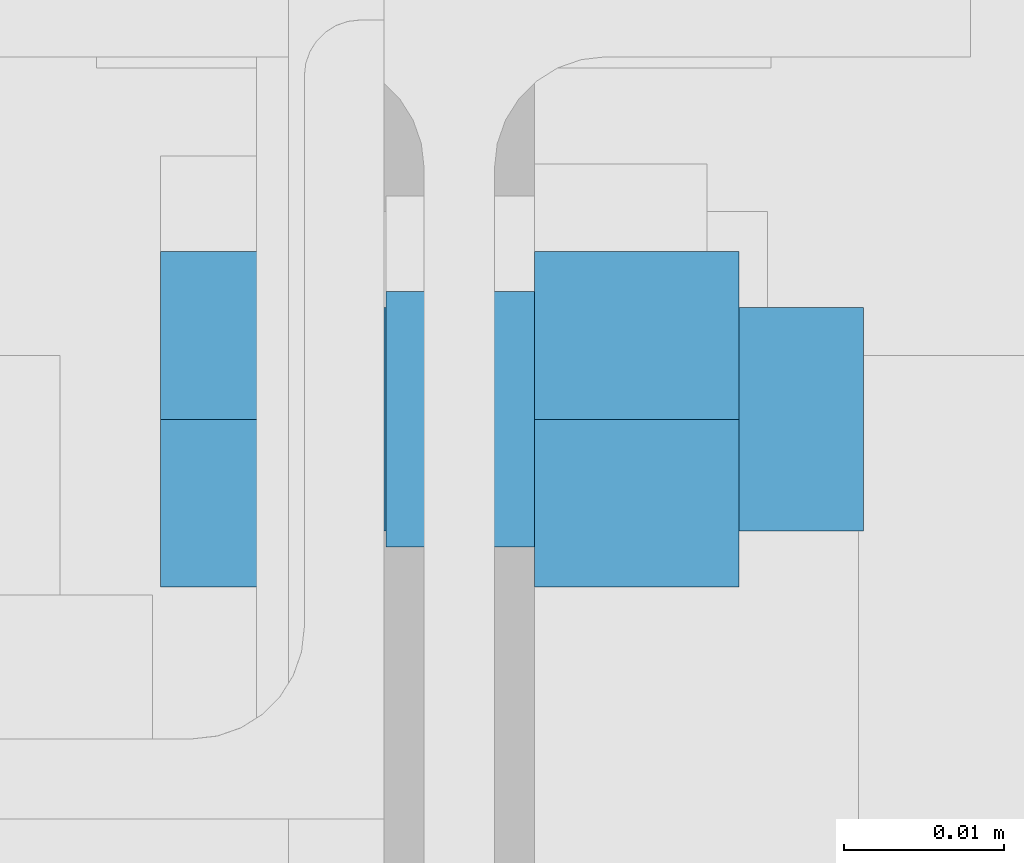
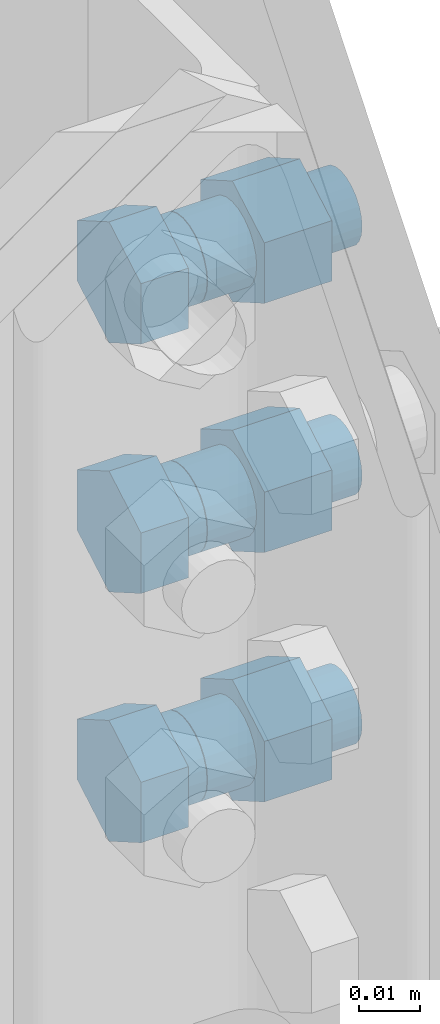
# One storey, part 15 of 21: 1 mechanical fastener.
"""IFC2X3 building model written with IfcOpenShell, lengths in millimetres."""

from ifc_helpers import new_model, si_unit, frame, origin_with_axes, place, context, project, spatial, faceted_brep, element, save


model = new_model("IFC2X3")

# Units and contexts
model_context_1 = context("Model", 3, precision=1e-05, world=origin_with_axes(), identifier="Body")
model_context_2 = context("Model", 3, precision=1e-05, world=origin_with_axes())
ifc_project = project(units=[si_unit("LENGTHUNIT", "METRE", prefix="MILLI"), si_unit("AREAUNIT", "SQUARE_METRE"), si_unit("VOLUMEUNIT", "CUBIC_METRE"), si_unit("MASSUNIT", "GRAM", prefix="KILO"), si_unit("TIMEUNIT", "SECOND"), si_unit("PLANEANGLEUNIT", "RADIAN"), si_unit("SOLIDANGLEUNIT", "STERADIAN"), si_unit("THERMODYNAMICTEMPERATUREUNIT", "DEGREE_CELSIUS"), si_unit("LUMINOUSINTENSITYUNIT", "LUMEN")], contexts=[model_context_1, model_context_2])

# Site, building, storey
site_placement = place(None, origin_with_axes())
site = spatial("IfcSite", under=ifc_project, at=site_placement, Name="Undefined", CompositionType="ELEMENT")
building_placement = place(site_placement, origin_with_axes())
building = spatial("IfcBuilding", under=site, at=building_placement, Name="Undefined", CompositionType="ELEMENT")
storey_placement = place(building_placement, origin_with_axes())
storey = spatial("IfcBuildingStorey", under=building, at=storey_placement, Name="Undefined", CompositionType="ELEMENT")

# Mechanical fastener
mechanical_fastener_placement = place(storey_placement, frame((9.729142e-06, -43.999202, 70.802388), z_axis=(3.4106055e-16, -1.0, -3.1900003e-05), x_axis=(1.2899234e-13, 3.1900003e-05, -1.0)))
element("IfcMechanicalFastener", 1, at=mechanical_fastener_placement, inside=storey, Name="Bolt assembly", NominalDiameter=14.0, NominalLength=35.0, context=model_context_1, shape_type="Brep", body=[
    faceted_brep([(12.124356, -18.70001, 0.0), (6.0621778, -18.70001, 10.5), (-6.0621778, -18.70001, 10.5), (-12.124356, -18.70001, 0.0), (-6.0621778, -18.70001, -10.5), (6.0621778, -18.70001, -10.5), (6.0621778, -9.7000095, -10.5), (-6.0621778, -9.7000095, -10.5), (-12.124356, -9.7000095, 0.0), (-6.0621778, -9.7000095, 10.5), (6.0621778, -9.7000095, 10.5), (12.124356, -9.7000095, 0.0), (7.0, -9.7000095, 0.0), (6.7614808, -9.7000095, 1.8117333), (6.0621778, -9.7000095, 3.5), (4.9497475, -9.7000095, 4.9497475), (3.5, -9.7000095, 6.0621778), (1.8117333, -9.7000095, 6.7614808), (-7.2543519e-13, -9.7000095, 7.0), (-1.8117333, -9.7000095, 6.7614808), (-3.5, -9.7000095, 6.0621778), (-4.9497475, -9.7000095, 4.9497475), (-6.0621778, -9.7000095, 3.5), (-6.7614808, -9.7000095, 1.8117333), (-7.0, -9.7000095, -1.4508704e-12), (-6.7614808, -9.7000095, -1.8117333), (-6.0621778, -9.7000095, -3.5), (-4.9497475, -9.7000095, -4.9497475), (-3.5, -9.7000095, -6.0621778), (-1.8117333, -9.7000095, -6.7614808), (2.168534e-12, -9.7000095, -7.0), (1.8117333, -9.7000095, -6.7614808), (3.5, -9.7000095, -6.0621778), (4.9497475, -9.7000095, -4.9497475), (6.0621778, -9.7000095, -3.5), (6.7614808, -9.7000095, -1.8117333), (6.7614808, 25.29999, -1.8117333), (6.0621778, 25.29999, -3.5), (4.9497475, 25.29999, -4.9497475), (3.5, 25.29999, -6.0621778), (1.8117333, 25.29999, -6.7614808), (2.168534e-12, 25.29999, -7.0), (-1.8117333, 25.29999, -6.7614808), (-3.5, 25.29999, -6.0621778), (-4.9497475, 25.29999, -4.9497475), (-6.0621778, 25.29999, -3.5), (-6.7614808, 25.29999, -1.8117333), (-7.0, 25.29999, -1.4508704e-12), (-6.7614808, 25.29999, 1.8117333), (-6.0621778, 25.29999, 3.5), (-4.9497475, 25.29999, 4.9497475), (-3.5, 25.29999, 6.0621778), (-1.8117333, 25.29999, 6.7614808), (-7.2543519e-13, 25.29999, 7.0), (1.8117333, 25.29999, 6.7614808), (3.5, 25.29999, 6.0621778), (4.9497475, 25.29999, 4.9497475), (6.0621778, 25.29999, 3.5), (6.7614808, 25.29999, 1.8117333), (7.0, 25.29999, 0.0), (12.124356, 4.6999901, 0.0), (6.0621778, 4.6999901, 10.5), (-6.0621778, 4.6999901, 10.5), (-12.124356, 4.6999901, 0.0), (-6.0621778, 4.6999901, -10.5), (6.0621778, 4.6999901, -10.5), (6.0621778, 17.49999, -10.5), (-6.0621778, 17.49999, -10.5), (-12.124356, 17.49999, 0.0), (-6.0621778, 17.49999, 10.5), (6.0621778, 17.49999, 10.5), (12.124356, 17.49999, 0.0), (62.124356, -18.70001, 0.0), (56.062178, -18.70001, 10.5), (43.937822, -18.70001, 10.5), (37.875644, -18.70001, 0.0), (43.937822, -18.70001, -10.5), (56.062178, -18.70001, -10.5), (56.062178, -9.7000095, -10.5), (43.937822, -9.7000095, -10.5), (37.875644, -9.7000095, 0.0), (43.937822, -9.7000095, 10.5), (56.062178, -9.7000095, 10.5), (62.124356, -9.7000095, 0.0), (57.0, -9.7000095, 0.0), (56.761481, -9.7000095, 1.8117333), (56.062178, -9.7000095, 3.5), (54.949747, -9.7000095, 4.9497475), (53.5, -9.7000095, 6.0621778), (51.811733, -9.7000095, 6.7614808), (50.0, -9.7000095, 7.0), (48.188267, -9.7000095, 6.7614808), (46.5, -9.7000095, 6.0621778), (45.050253, -9.7000095, 4.9497475), (43.937822, -9.7000095, 3.5), (43.238519, -9.7000095, 1.8117333), (43.0, -9.7000095, -1.4508704e-12), (43.238519, -9.7000095, -1.8117333), (43.937822, -9.7000095, -3.5), (45.050253, -9.7000095, -4.9497475), (46.5, -9.7000095, -6.0621778), (48.188267, -9.7000095, -6.7614808), (50.0, -9.7000095, -7.0), (51.811733, -9.7000095, -6.7614808), (53.5, -9.7000095, -6.0621778), (54.949747, -9.7000095, -4.9497475), (56.062178, -9.7000095, -3.5), (56.761481, -9.7000095, -1.8117333), (56.761481, 25.29999, -1.8117333), (56.062178, 25.29999, -3.5), (54.949747, 25.29999, -4.9497475), (53.5, 25.29999, -6.0621778), (51.811733, 25.29999, -6.7614808), (50.0, 25.29999, -7.0), (48.188267, 25.29999, -6.7614808), (46.5, 25.29999, -6.0621778), (45.050253, 25.29999, -4.9497475), (43.937822, 25.29999, -3.5), (43.238519, 25.29999, -1.8117333), (43.0, 25.29999, -1.4508704e-12), (43.238519, 25.29999, 1.8117333), (43.937822, 25.29999, 3.5), (45.050253, 25.29999, 4.9497475), (46.5, 25.29999, 6.0621778), (48.188267, 25.29999, 6.7614808), (50.0, 25.29999, 7.0), (51.811733, 25.29999, 6.7614808), (53.5, 25.29999, 6.0621778), (54.949747, 25.29999, 4.9497475), (56.062178, 25.29999, 3.5), (56.761481, 25.29999, 1.8117333), (57.0, 25.29999, 0.0), (62.124356, 4.6999901, 0.0), (56.062178, 4.6999901, 10.5), (43.937822, 4.6999901, 10.5), (37.875644, 4.6999901, 0.0), (43.937822, 4.6999901, -10.5), (56.062178, 4.6999901, -10.5), (56.062178, 17.49999, -10.5), (43.937822, 17.49999, -10.5), (37.875644, 17.49999, 0.0), (43.937822, 17.49999, 10.5), (56.062178, 17.49999, 10.5), (62.124356, 17.49999, 0.0), (112.12436, -18.70001, 0.0), (106.06218, -18.70001, 10.5), (93.937822, -18.70001, 10.5), (87.875644, -18.70001, 0.0), (93.937822, -18.70001, -10.5), (106.06218, -18.70001, -10.5), (106.06218, -9.7000095, -10.5), (93.937822, -9.7000095, -10.5), (87.875644, -9.7000095, 0.0), (93.937822, -9.7000095, 10.5), (106.06218, -9.7000095, 10.5), (112.12436, -9.7000095, 0.0), (107.0, -9.7000095, 0.0), (106.76148, -9.7000095, 1.8117333), (106.06218, -9.7000095, 3.5), (104.94975, -9.7000095, 4.9497475), (103.5, -9.7000095, 6.0621778), (101.81173, -9.7000095, 6.7614808), (100.0, -9.7000095, 7.0), (98.188267, -9.7000095, 6.7614808), (96.5, -9.7000095, 6.0621778), (95.050253, -9.7000095, 4.9497475), (93.937822, -9.7000095, 3.5), (93.238519, -9.7000095, 1.8117333), (93.0, -9.7000095, -1.4508704e-12), (93.238519, -9.7000095, -1.8117333), (93.937822, -9.7000095, -3.5), (95.050253, -9.7000095, -4.9497475), (96.5, -9.7000095, -6.0621778), (98.188267, -9.7000095, -6.7614808), (100.0, -9.7000095, -7.0), (101.81173, -9.7000095, -6.7614808), (103.5, -9.7000095, -6.0621778), (104.94975, -9.7000095, -4.9497475), (106.06218, -9.7000095, -3.5), (106.76148, -9.7000095, -1.8117333), (106.76148, 25.29999, -1.8117333), (106.06218, 25.29999, -3.5), (104.94975, 25.29999, -4.9497475), (103.5, 25.29999, -6.0621778), (101.81173, 25.29999, -6.7614808), (100.0, 25.29999, -7.0), (98.188267, 25.29999, -6.7614808), (96.5, 25.29999, -6.0621778), (95.050253, 25.29999, -4.9497475), (93.937822, 25.29999, -3.5), (93.238519, 25.29999, -1.8117333), (93.0, 25.29999, -1.4508704e-12), (93.238519, 25.29999, 1.8117333), (93.937822, 25.29999, 3.5), (95.050253, 25.29999, 4.9497475), (96.5, 25.29999, 6.0621778), (98.188267, 25.29999, 6.7614808), (100.0, 25.29999, 7.0), (101.81173, 25.29999, 6.7614808), (103.5, 25.29999, 6.0621778), (104.94975, 25.29999, 4.9497475), (106.06218, 25.29999, 3.5), (106.76148, 25.29999, 1.8117333), (107.0, 25.29999, 0.0), (112.12436, 4.6999901, 0.0), (106.06218, 4.6999901, 10.5), (93.937822, 4.6999901, 10.5), (87.875644, 4.6999901, 0.0), (93.937822, 4.6999901, -10.5), (106.06218, 4.6999901, -10.5), (106.06218, 17.49999, -10.5), (93.937822, 17.49999, -10.5), (87.875644, 17.49999, 0.0), (93.937822, 17.49999, 10.5), (106.06218, 17.49999, 10.5), (112.12436, 17.49999, 0.0)], [[[0, 1, 2, 3, 4, 5]], [[6, 7, 8, 9, 10, 11]], [[0, 11, 10, 1]], [[1, 10, 9, 2]], [[2, 9, 8, 3]], [[3, 8, 7, 4]], [[4, 7, 6, 5]], [[5, 6, 11, 0]], [[12, 13, 14, 15, 16, 17, 18, 19, 20, 21, 22, 23, 24, 25, 26, 27, 28, 29, 30, 31, 32, 33, 34, 35]], [[36, 37, 38, 39, 40, 41, 42, 43, 44, 45, 46, 47, 48, 49, 50, 51, 52, 53, 54, 55, 56, 57, 58, 59]], [[12, 59, 58, 13]], [[13, 58, 57, 14]], [[14, 57, 56, 15]], [[15, 56, 55, 16]], [[16, 55, 54, 17]], [[17, 54, 53, 18]], [[18, 53, 52, 19]], [[19, 52, 51, 20]], [[20, 51, 50, 21]], [[21, 50, 49, 22]], [[22, 49, 48, 23]], [[23, 48, 47, 24]], [[24, 47, 46, 25]], [[25, 46, 45, 26]], [[26, 45, 44, 27]], [[27, 44, 43, 28]], [[28, 43, 42, 29]], [[29, 42, 41, 30]], [[30, 41, 40, 31]], [[31, 40, 39, 32]], [[32, 39, 38, 33]], [[33, 38, 37, 34]], [[34, 37, 36, 35]], [[35, 36, 59, 12]], [[60, 61, 62, 63, 64, 65]], [[66, 67, 68, 69, 70, 71]], [[60, 71, 70, 61]], [[61, 70, 69, 62]], [[62, 69, 68, 63]], [[63, 68, 67, 64]], [[64, 67, 66, 65]], [[65, 66, 71, 60]], [[72, 73, 74, 75, 76, 77]], [[78, 79, 80, 81, 82, 83]], [[72, 83, 82, 73]], [[73, 82, 81, 74]], [[74, 81, 80, 75]], [[75, 80, 79, 76]], [[76, 79, 78, 77]], [[77, 78, 83, 72]], [[84, 85, 86, 87, 88, 89, 90, 91, 92, 93, 94, 95, 96, 97, 98, 99, 100, 101, 102, 103, 104, 105, 106, 107]], [[108, 109, 110, 111, 112, 113, 114, 115, 116, 117, 118, 119, 120, 121, 122, 123, 124, 125, 126, 127, 128, 129, 130, 131]], [[84, 131, 130, 85]], [[85, 130, 129, 86]], [[86, 129, 128, 87]], [[87, 128, 127, 88]], [[88, 127, 126, 89]], [[89, 126, 125, 90]], [[90, 125, 124, 91]], [[91, 124, 123, 92]], [[92, 123, 122, 93]], [[93, 122, 121, 94]], [[94, 121, 120, 95]], [[95, 120, 119, 96]], [[96, 119, 118, 97]], [[97, 118, 117, 98]], [[98, 117, 116, 99]], [[99, 116, 115, 100]], [[100, 115, 114, 101]], [[101, 114, 113, 102]], [[102, 113, 112, 103]], [[103, 112, 111, 104]], [[104, 111, 110, 105]], [[105, 110, 109, 106]], [[106, 109, 108, 107]], [[107, 108, 131, 84]], [[132, 133, 134, 135, 136, 137]], [[138, 139, 140, 141, 142, 143]], [[132, 143, 142, 133]], [[133, 142, 141, 134]], [[134, 141, 140, 135]], [[135, 140, 139, 136]], [[136, 139, 138, 137]], [[137, 138, 143, 132]], [[144, 145, 146, 147, 148, 149]], [[150, 151, 152, 153, 154, 155]], [[144, 155, 154, 145]], [[145, 154, 153, 146]], [[146, 153, 152, 147]], [[147, 152, 151, 148]], [[148, 151, 150, 149]], [[149, 150, 155, 144]], [[156, 157, 158, 159, 160, 161, 162, 163, 164, 165, 166, 167, 168, 169, 170, 171, 172, 173, 174, 175, 176, 177, 178, 179]], [[180, 181, 182, 183, 184, 185, 186, 187, 188, 189, 190, 191, 192, 193, 194, 195, 196, 197, 198, 199, 200, 201, 202, 203]], [[156, 203, 202, 157]], [[157, 202, 201, 158]], [[158, 201, 200, 159]], [[159, 200, 199, 160]], [[160, 199, 198, 161]], [[161, 198, 197, 162]], [[162, 197, 196, 163]], [[163, 196, 195, 164]], [[164, 195, 194, 165]], [[165, 194, 193, 166]], [[166, 193, 192, 167]], [[167, 192, 191, 168]], [[168, 191, 190, 169]], [[169, 190, 189, 170]], [[170, 189, 188, 171]], [[171, 188, 187, 172]], [[172, 187, 186, 173]], [[173, 186, 185, 174]], [[174, 185, 184, 175]], [[175, 184, 183, 176]], [[176, 183, 182, 177]], [[177, 182, 181, 178]], [[178, 181, 180, 179]], [[179, 180, 203, 156]], [[204, 205, 206, 207, 208, 209]], [[210, 211, 212, 213, 214, 215]], [[204, 215, 214, 205]], [[205, 214, 213, 206]], [[206, 213, 212, 207]], [[207, 212, 211, 208]], [[208, 211, 210, 209]], [[209, 210, 215, 204]]]),
    faceted_brep([(8.0, -4.6000095, 0.0), (7.7274066, -4.6000095, 2.0705524), (6.9282032, -4.6000095, 4.0), (5.6568542, -4.6000095, 5.6568542), (4.0, -4.6000095, 6.9282032), (2.0705524, -4.6000095, 7.7274066), (-8.2906879e-13, -4.6000095, 8.0), (-2.0705524, -4.6000095, 7.7274066), (-4.0, -4.6000095, 6.9282032), (-5.6568542, -4.6000095, 5.6568542), (-6.9282032, -4.6000095, 4.0), (-7.7274066, -4.6000095, 2.0705524), (-8.0, -4.6000095, -1.6581376e-12), (-7.7274066, -4.6000095, -2.0705524), (-6.9282032, -4.6000095, -4.0), (-5.6568542, -4.6000095, -5.6568542), (-4.0, -4.6000095, -6.9282032), (-2.0705524, -4.6000095, -7.7274066), (2.4783246e-12, -4.6000095, -8.0), (2.0705524, -4.6000095, -7.7274066), (4.0, -4.6000095, -6.9282032), (5.6568542, -4.6000095, -5.6568542), (6.9282032, -4.6000095, -4.0), (7.7274066, -4.6000095, -2.0705524), (7.7274066, 4.7999901, -2.0705524), (6.9282032, 4.7999901, -4.0), (5.6568542, 4.7999901, -5.6568542), (4.0, 4.7999901, -6.9282032), (2.0705524, 4.7999901, -7.7274066), (2.4783246e-12, 4.7999901, -8.0), (-2.0705524, 4.7999901, -7.7274066), (-4.0, 4.7999901, -6.9282032), (-5.6568542, 4.7999901, -5.6568542), (-6.9282032, 4.7999901, -4.0), (-7.7274066, 4.7999901, -2.0705524), (-8.0, 4.7999901, -1.6581376e-12), (-7.7274066, 4.7999901, 2.0705524), (-6.9282032, 4.7999901, 4.0), (-5.6568542, 4.7999901, 5.6568542), (-4.0, 4.7999901, 6.9282032), (-2.0705524, 4.7999901, 7.7274066), (-8.2906879e-13, 4.7999901, 8.0), (2.0705524, 4.7999901, 7.7274066), (4.0, 4.7999901, 6.9282032), (5.6568542, 4.7999901, 5.6568542), (6.9282032, 4.7999901, 4.0), (7.7274066, 4.7999901, 2.0705524), (8.0, 4.7999901, 0.0), (8.0, -9.8000095, 0.0), (7.7274066, -9.8000095, 2.0705524), (6.9282032, -9.8000095, 4.0), (5.6568542, -9.8000095, 5.6568542), (4.0, -9.8000095, 6.9282032), (2.0705524, -9.8000095, 7.7274066), (-8.2906879e-13, -9.8000095, 8.0), (-2.0705524, -9.8000095, 7.7274066), (-4.0, -9.8000095, 6.9282032), (-5.6568542, -9.8000095, 5.6568542), (-6.9282032, -9.8000095, 4.0), (-7.7274066, -9.8000095, 2.0705524), (-8.0, -9.8000095, -1.6581376e-12), (-7.7274066, -9.8000095, -2.0705524), (-6.9282032, -9.8000095, -4.0), (-5.6568542, -9.8000095, -5.6568542), (-4.0, -9.8000095, -6.9282032), (-2.0705524, -9.8000095, -7.7274066), (2.4783246e-12, -9.8000095, -8.0), (2.0705524, -9.8000095, -7.7274066), (4.0, -9.8000095, -6.9282032), (5.6568542, -9.8000095, -5.6568542), (6.9282032, -9.8000095, -4.0), (7.7274066, -9.8000095, -2.0705524), (7.7274066, -4.7000095, -2.0705524), (6.9282032, -4.7000095, -4.0), (5.6568542, -4.7000095, -5.6568542), (4.0, -4.7000095, -6.9282032), (2.0705524, -4.7000095, -7.7274066), (2.4783246e-12, -4.7000095, -8.0), (-2.0705524, -4.7000095, -7.7274066), (-4.0, -4.7000095, -6.9282032), (-5.6568542, -4.7000095, -5.6568542), (-6.9282032, -4.7000095, -4.0), (-7.7274066, -4.7000095, -2.0705524), (-8.0, -4.7000095, -1.6581376e-12), (-7.7274066, -4.7000095, 2.0705524), (-6.9282032, -4.7000095, 4.0), (-5.6568542, -4.7000095, 5.6568542), (-4.0, -4.7000095, 6.9282032), (-2.0705524, -4.7000095, 7.7274066), (-8.2906879e-13, -4.7000095, 8.0), (2.0705524, -4.7000095, 7.7274066), (4.0, -4.7000095, 6.9282032), (5.6568542, -4.7000095, 5.6568542), (6.9282032, -4.7000095, 4.0), (7.7274066, -4.7000095, 2.0705524), (8.0, -4.7000095, 0.0), (58.0, -4.6000095, 0.0), (57.727407, -4.6000095, 2.0705524), (56.928203, -4.6000095, 4.0), (55.656854, -4.6000095, 5.6568542), (54.0, -4.6000095, 6.9282032), (52.070552, -4.6000095, 7.7274066), (50.0, -4.6000095, 8.0), (47.929448, -4.6000095, 7.7274066), (46.0, -4.6000095, 6.9282032), (44.343146, -4.6000095, 5.6568542), (43.071797, -4.6000095, 4.0), (42.272593, -4.6000095, 2.0705524), (42.0, -4.6000095, -1.6581376e-12), (42.272593, -4.6000095, -2.0705524), (43.071797, -4.6000095, -4.0), (44.343146, -4.6000095, -5.6568542), (46.0, -4.6000095, -6.9282032), (47.929448, -4.6000095, -7.7274066), (50.0, -4.6000095, -8.0), (52.070552, -4.6000095, -7.7274066), (54.0, -4.6000095, -6.9282032), (55.656854, -4.6000095, -5.6568542), (56.928203, -4.6000095, -4.0), (57.727407, -4.6000095, -2.0705524), (57.727407, 4.7999901, -2.0705524), (56.928203, 4.7999901, -4.0), (55.656854, 4.7999901, -5.6568542), (54.0, 4.7999901, -6.9282032), (52.070552, 4.7999901, -7.7274066), (50.0, 4.7999901, -8.0), (47.929448, 4.7999901, -7.7274066), (46.0, 4.7999901, -6.9282032), (44.343146, 4.7999901, -5.6568542), (43.071797, 4.7999901, -4.0), (42.272593, 4.7999901, -2.0705524), (42.0, 4.7999901, -1.6581376e-12), (42.272593, 4.7999901, 2.0705524), (43.071797, 4.7999901, 4.0), (44.343146, 4.7999901, 5.6568542), (46.0, 4.7999901, 6.9282032), (47.929448, 4.7999901, 7.7274066), (50.0, 4.7999901, 8.0), (52.070552, 4.7999901, 7.7274066), (54.0, 4.7999901, 6.9282032), (55.656854, 4.7999901, 5.6568542), (56.928203, 4.7999901, 4.0), (57.727407, 4.7999901, 2.0705524), (58.0, 4.7999901, 0.0), (58.0, -9.8000095, 0.0), (57.727407, -9.8000095, 2.0705524), (56.928203, -9.8000095, 4.0), (55.656854, -9.8000095, 5.6568542), (54.0, -9.8000095, 6.9282032), (52.070552, -9.8000095, 7.7274066), (50.0, -9.8000095, 8.0), (47.929448, -9.8000095, 7.7274066), (46.0, -9.8000095, 6.9282032), (44.343146, -9.8000095, 5.6568542), (43.071797, -9.8000095, 4.0), (42.272593, -9.8000095, 2.0705524), (42.0, -9.8000095, -1.6581376e-12), (42.272593, -9.8000095, -2.0705524), (43.071797, -9.8000095, -4.0), (44.343146, -9.8000095, -5.6568542), (46.0, -9.8000095, -6.9282032), (47.929448, -9.8000095, -7.7274066), (50.0, -9.8000095, -8.0), (52.070552, -9.8000095, -7.7274066), (54.0, -9.8000095, -6.9282032), (55.656854, -9.8000095, -5.6568542), (56.928203, -9.8000095, -4.0), (57.727407, -9.8000095, -2.0705524), (57.727407, -4.7000095, -2.0705524), (56.928203, -4.7000095, -4.0), (55.656854, -4.7000095, -5.6568542), (54.0, -4.7000095, -6.9282032), (52.070552, -4.7000095, -7.7274066), (50.0, -4.7000095, -8.0), (47.929448, -4.7000095, -7.7274066), (46.0, -4.7000095, -6.9282032), (44.343146, -4.7000095, -5.6568542), (43.071797, -4.7000095, -4.0), (42.272593, -4.7000095, -2.0705524), (42.0, -4.7000095, -1.6581376e-12), (42.272593, -4.7000095, 2.0705524), (43.071797, -4.7000095, 4.0), (44.343146, -4.7000095, 5.6568542), (46.0, -4.7000095, 6.9282032), (47.929448, -4.7000095, 7.7274066), (50.0, -4.7000095, 8.0), (52.070552, -4.7000095, 7.7274066), (54.0, -4.7000095, 6.9282032), (55.656854, -4.7000095, 5.6568542), (56.928203, -4.7000095, 4.0), (57.727407, -4.7000095, 2.0705524), (58.0, -4.7000095, 0.0), (108.0, -4.6000095, 0.0), (107.72741, -4.6000095, 2.0705524), (106.9282, -4.6000095, 4.0), (105.65685, -4.6000095, 5.6568542), (104.0, -4.6000095, 6.9282032), (102.07055, -4.6000095, 7.7274066), (100.0, -4.6000095, 8.0), (97.929448, -4.6000095, 7.7274066), (96.0, -4.6000095, 6.9282032), (94.343146, -4.6000095, 5.6568542), (93.071797, -4.6000095, 4.0), (92.272593, -4.6000095, 2.0705524), (92.0, -4.6000095, -1.6581376e-12), (92.272593, -4.6000095, -2.0705524), (93.071797, -4.6000095, -4.0), (94.343146, -4.6000095, -5.6568542), (96.0, -4.6000095, -6.9282032), (97.929448, -4.6000095, -7.7274066), (100.0, -4.6000095, -8.0), (102.07055, -4.6000095, -7.7274066), (104.0, -4.6000095, -6.9282032), (105.65685, -4.6000095, -5.6568542), (106.9282, -4.6000095, -4.0), (107.72741, -4.6000095, -2.0705524), (107.72741, 4.7999901, -2.0705524), (106.9282, 4.7999901, -4.0), (105.65685, 4.7999901, -5.6568542), (104.0, 4.7999901, -6.9282032), (102.07055, 4.7999901, -7.7274066), (100.0, 4.7999901, -8.0), (97.929448, 4.7999901, -7.7274066), (96.0, 4.7999901, -6.9282032), (94.343146, 4.7999901, -5.6568542), (93.071797, 4.7999901, -4.0), (92.272593, 4.7999901, -2.0705524), (92.0, 4.7999901, -1.6581376e-12), (92.272593, 4.7999901, 2.0705524), (93.071797, 4.7999901, 4.0), (94.343146, 4.7999901, 5.6568542), (96.0, 4.7999901, 6.9282032), (97.929448, 4.7999901, 7.7274066), (100.0, 4.7999901, 8.0), (102.07055, 4.7999901, 7.7274066), (104.0, 4.7999901, 6.9282032), (105.65685, 4.7999901, 5.6568542), (106.9282, 4.7999901, 4.0), (107.72741, 4.7999901, 2.0705524), (108.0, 4.7999901, 0.0), (108.0, -9.8000095, 0.0), (107.72741, -9.8000095, 2.0705524), (106.9282, -9.8000095, 4.0), (105.65685, -9.8000095, 5.6568542), (104.0, -9.8000095, 6.9282032), (102.07055, -9.8000095, 7.7274066), (100.0, -9.8000095, 8.0), (97.929448, -9.8000095, 7.7274066), (96.0, -9.8000095, 6.9282032), (94.343146, -9.8000095, 5.6568542), (93.071797, -9.8000095, 4.0), (92.272593, -9.8000095, 2.0705524), (92.0, -9.8000095, -1.6581376e-12), (92.272593, -9.8000095, -2.0705524), (93.071797, -9.8000095, -4.0), (94.343146, -9.8000095, -5.6568542), (96.0, -9.8000095, -6.9282032), (97.929448, -9.8000095, -7.7274066), (100.0, -9.8000095, -8.0), (102.07055, -9.8000095, -7.7274066), (104.0, -9.8000095, -6.9282032), (105.65685, -9.8000095, -5.6568542), (106.9282, -9.8000095, -4.0), (107.72741, -9.8000095, -2.0705524), (107.72741, -4.7000095, -2.0705524), (106.9282, -4.7000095, -4.0), (105.65685, -4.7000095, -5.6568542), (104.0, -4.7000095, -6.9282032), (102.07055, -4.7000095, -7.7274066), (100.0, -4.7000095, -8.0), (97.929448, -4.7000095, -7.7274066), (96.0, -4.7000095, -6.9282032), (94.343146, -4.7000095, -5.6568542), (93.071797, -4.7000095, -4.0), (92.272593, -4.7000095, -2.0705524), (92.0, -4.7000095, -1.6581376e-12), (92.272593, -4.7000095, 2.0705524), (93.071797, -4.7000095, 4.0), (94.343146, -4.7000095, 5.6568542), (96.0, -4.7000095, 6.9282032), (97.929448, -4.7000095, 7.7274066), (100.0, -4.7000095, 8.0), (102.07055, -4.7000095, 7.7274066), (104.0, -4.7000095, 6.9282032), (105.65685, -4.7000095, 5.6568542), (106.9282, -4.7000095, 4.0), (107.72741, -4.7000095, 2.0705524), (108.0, -4.7000095, 0.0)], [[[0, 1, 2, 3, 4, 5, 6, 7, 8, 9, 10, 11, 12, 13, 14, 15, 16, 17, 18, 19, 20, 21, 22, 23]], [[24, 25, 26, 27, 28, 29, 30, 31, 32, 33, 34, 35, 36, 37, 38, 39, 40, 41, 42, 43, 44, 45, 46, 47]], [[0, 47, 46, 1]], [[1, 46, 45, 2]], [[2, 45, 44, 3]], [[3, 44, 43, 4]], [[4, 43, 42, 5]], [[5, 42, 41, 6]], [[6, 41, 40, 7]], [[7, 40, 39, 8]], [[8, 39, 38, 9]], [[9, 38, 37, 10]], [[10, 37, 36, 11]], [[11, 36, 35, 12]], [[12, 35, 34, 13]], [[13, 34, 33, 14]], [[14, 33, 32, 15]], [[15, 32, 31, 16]], [[16, 31, 30, 17]], [[17, 30, 29, 18]], [[18, 29, 28, 19]], [[19, 28, 27, 20]], [[20, 27, 26, 21]], [[21, 26, 25, 22]], [[22, 25, 24, 23]], [[23, 24, 47, 0]], [[48, 49, 50, 51, 52, 53, 54, 55, 56, 57, 58, 59, 60, 61, 62, 63, 64, 65, 66, 67, 68, 69, 70, 71]], [[72, 73, 74, 75, 76, 77, 78, 79, 80, 81, 82, 83, 84, 85, 86, 87, 88, 89, 90, 91, 92, 93, 94, 95]], [[48, 95, 94, 49]], [[49, 94, 93, 50]], [[50, 93, 92, 51]], [[51, 92, 91, 52]], [[52, 91, 90, 53]], [[53, 90, 89, 54]], [[54, 89, 88, 55]], [[55, 88, 87, 56]], [[56, 87, 86, 57]], [[57, 86, 85, 58]], [[58, 85, 84, 59]], [[59, 84, 83, 60]], [[60, 83, 82, 61]], [[61, 82, 81, 62]], [[62, 81, 80, 63]], [[63, 80, 79, 64]], [[64, 79, 78, 65]], [[65, 78, 77, 66]], [[66, 77, 76, 67]], [[67, 76, 75, 68]], [[68, 75, 74, 69]], [[69, 74, 73, 70]], [[70, 73, 72, 71]], [[71, 72, 95, 48]], [[96, 97, 98, 99, 100, 101, 102, 103, 104, 105, 106, 107, 108, 109, 110, 111, 112, 113, 114, 115, 116, 117, 118, 119]], [[120, 121, 122, 123, 124, 125, 126, 127, 128, 129, 130, 131, 132, 133, 134, 135, 136, 137, 138, 139, 140, 141, 142, 143]], [[96, 143, 142, 97]], [[97, 142, 141, 98]], [[98, 141, 140, 99]], [[99, 140, 139, 100]], [[100, 139, 138, 101]], [[101, 138, 137, 102]], [[102, 137, 136, 103]], [[103, 136, 135, 104]], [[104, 135, 134, 105]], [[105, 134, 133, 106]], [[106, 133, 132, 107]], [[107, 132, 131, 108]], [[108, 131, 130, 109]], [[109, 130, 129, 110]], [[110, 129, 128, 111]], [[111, 128, 127, 112]], [[112, 127, 126, 113]], [[113, 126, 125, 114]], [[114, 125, 124, 115]], [[115, 124, 123, 116]], [[116, 123, 122, 117]], [[117, 122, 121, 118]], [[118, 121, 120, 119]], [[119, 120, 143, 96]], [[144, 145, 146, 147, 148, 149, 150, 151, 152, 153, 154, 155, 156, 157, 158, 159, 160, 161, 162, 163, 164, 165, 166, 167]], [[168, 169, 170, 171, 172, 173, 174, 175, 176, 177, 178, 179, 180, 181, 182, 183, 184, 185, 186, 187, 188, 189, 190, 191]], [[144, 191, 190, 145]], [[145, 190, 189, 146]], [[146, 189, 188, 147]], [[147, 188, 187, 148]], [[148, 187, 186, 149]], [[149, 186, 185, 150]], [[150, 185, 184, 151]], [[151, 184, 183, 152]], [[152, 183, 182, 153]], [[153, 182, 181, 154]], [[154, 181, 180, 155]], [[155, 180, 179, 156]], [[156, 179, 178, 157]], [[157, 178, 177, 158]], [[158, 177, 176, 159]], [[159, 176, 175, 160]], [[160, 175, 174, 161]], [[161, 174, 173, 162]], [[162, 173, 172, 163]], [[163, 172, 171, 164]], [[164, 171, 170, 165]], [[165, 170, 169, 166]], [[166, 169, 168, 167]], [[167, 168, 191, 144]], [[192, 193, 194, 195, 196, 197, 198, 199, 200, 201, 202, 203, 204, 205, 206, 207, 208, 209, 210, 211, 212, 213, 214, 215]], [[216, 217, 218, 219, 220, 221, 222, 223, 224, 225, 226, 227, 228, 229, 230, 231, 232, 233, 234, 235, 236, 237, 238, 239]], [[192, 239, 238, 193]], [[193, 238, 237, 194]], [[194, 237, 236, 195]], [[195, 236, 235, 196]], [[196, 235, 234, 197]], [[197, 234, 233, 198]], [[198, 233, 232, 199]], [[199, 232, 231, 200]], [[200, 231, 230, 201]], [[201, 230, 229, 202]], [[202, 229, 228, 203]], [[203, 228, 227, 204]], [[204, 227, 226, 205]], [[205, 226, 225, 206]], [[206, 225, 224, 207]], [[207, 224, 223, 208]], [[208, 223, 222, 209]], [[209, 222, 221, 210]], [[210, 221, 220, 211]], [[211, 220, 219, 212]], [[212, 219, 218, 213]], [[213, 218, 217, 214]], [[214, 217, 216, 215]], [[215, 216, 239, 192]], [[240, 241, 242, 243, 244, 245, 246, 247, 248, 249, 250, 251, 252, 253, 254, 255, 256, 257, 258, 259, 260, 261, 262, 263]], [[264, 265, 266, 267, 268, 269, 270, 271, 272, 273, 274, 275, 276, 277, 278, 279, 280, 281, 282, 283, 284, 285, 286, 287]], [[240, 287, 286, 241]], [[241, 286, 285, 242]], [[242, 285, 284, 243]], [[243, 284, 283, 244]], [[244, 283, 282, 245]], [[245, 282, 281, 246]], [[246, 281, 280, 247]], [[247, 280, 279, 248]], [[248, 279, 278, 249]], [[249, 278, 277, 250]], [[250, 277, 276, 251]], [[251, 276, 275, 252]], [[252, 275, 274, 253]], [[253, 274, 273, 254]], [[254, 273, 272, 255]], [[255, 272, 271, 256]], [[256, 271, 270, 257]], [[257, 270, 269, 258]], [[258, 269, 268, 259]], [[259, 268, 267, 260]], [[260, 267, 266, 261]], [[261, 266, 265, 262]], [[262, 265, 264, 263]], [[263, 264, 287, 240]]]),
])

save(model, "model.ifc")
